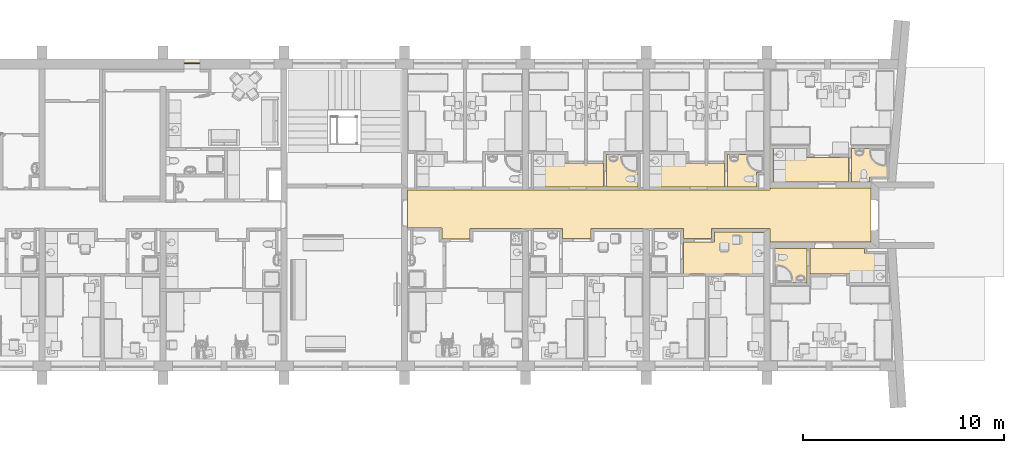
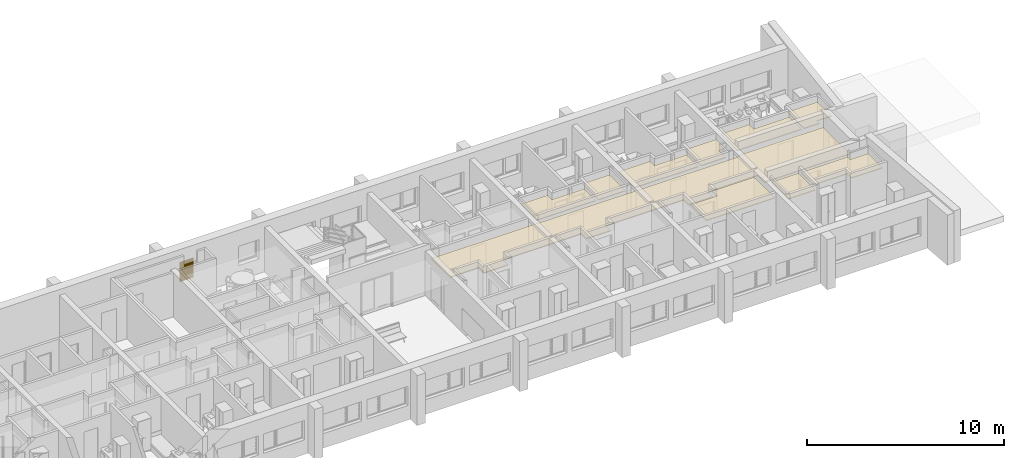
# One storey, part 43 of 172: 11 coverings.
"""IFC2X3 building model written with IfcOpenShell, lengths in millimetres."""

from ifc_helpers import new_model, entity, si_unit, converted_unit, money_unit, direction, frame, origin_with_axes, place, context, subcontext, project, spatial, faceted_brep, material, material_list, type_object, element, save


model = new_model("IFC2X3")

# Units and contexts
model_context = context("Model", 3, precision=1e-05, world=origin_with_axes(), true_north=direction((0.0, 1.0)))
body_context = subcontext(model_context, "Body", "Model", "MODEL_VIEW")
ifc_project = project(units=[si_unit("LENGTHUNIT", "METRE", prefix="MILLI"), si_unit("AREAUNIT", "SQUARE_METRE"), si_unit("VOLUMEUNIT", "CUBIC_METRE"), converted_unit("PLANEANGLEUNIT", "DEGREE", entity("IfcPlaneAngleMeasure", 0.0174532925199), si_unit("PLANEANGLEUNIT", "RADIAN"), dimensions=[0, 0, 0, 0, 0, 0, 0]), si_unit("SOLIDANGLEUNIT", "STERADIAN"), money_unit("USD"), converted_unit("TIMEUNIT", "Year", entity("IfcTimeMeasure", 31556926.0), si_unit("TIMEUNIT", "SECOND"), dimensions=[0, 0, 0, 0, 0, 0, 0]), si_unit("MASSUNIT", "GRAM"), si_unit("THERMODYNAMICTEMPERATUREUNIT", "DEGREE_CELSIUS"), si_unit("LUMINOUSINTENSITYUNIT", "LUMEN")], contexts=[model_context])

# Site, building, storey
site_placement = place(None, origin_with_axes())
site = spatial("IfcSite", under=ifc_project, at=site_placement, Name="Site", CompositionType="ELEMENT")
building_placement = place(site_placement, origin_with_axes())
building = spatial("IfcBuilding", under=site, at=building_placement, Name="Building", CompositionType="ELEMENT")
storey_placement = place(building_placement, frame((0.0, 0.0, 3200.0), z_axis=(0.0, 0.0, 1.0), x_axis=(1.0, 0.0, 0.0)))
storey = spatial("IfcBuildingStorey", under=building, at=storey_placement, Name="3KORRUS", CompositionType="ELEMENT", Elevation=3200.0)

# Coverings
ifc_material_1 = material(Name="Alumiiniumprofiil")
covering_type_1 = type_object("IfcCoveringType", Name="Alumiiniumprofiil 50", PredefinedType="NOTDEFINED")
covering_1_placement = place(storey_placement, frame((3884.70329669, -9367.37850445, 2350.0), z_axis=(0.0, 0.0, 1.0), x_axis=(1.0, 0.0, 0.0)))
element("IfcCovering", 1, at=covering_1_placement, inside=storey, type_object=covering_type_1, material=ifc_material_1, Name="RL2", ObjectType="alumiiniumprofiil", PredefinedType="CEILING", context=body_context, shape_type="Brep", body=[
    faceted_brep([(0.0, 0.0, -50.0), (0.0, -1620.723, -50.0), (0.0, -1620.723, 0.0), (0.0, 0.0, 0.0), (1575.0, 0.0, -50.0), (1575.0, -1619.226, -50.0), (1238.577, -1620.723, -50.0), (1238.577, -1620.723, 0.0), (1575.0, -1619.226, 0.0), (1575.0, 0.0, 0.0)], [[[0, 1, 2, 3]], [[0, 4, 5, 6, 1]], [[1, 6, 7, 2]], [[3, 2, 7, 8, 9]], [[4, 0, 3, 9]], [[5, 4, 9, 8]], [[6, 5, 8, 7]]]),
])
covering_2_placement = place(storey_placement, frame((9884.70329669, -10988.1015713, 2350.0), z_axis=(0.0, 0.0, 1.0), x_axis=(1.0, 0.0, 0.0)))
element("IfcCovering", 2, at=covering_2_placement, inside=storey, type_object=covering_type_1, material=ifc_material_1, Name="RL2", ObjectType="alumiiniumprofiil", PredefinedType="CEILING", context=body_context, shape_type="Brep", body=[
    faceted_brep([(0.0, 0.0, -50.0), (1238.577, 0.0, -50.0), (1238.577, 0.0, 0.0), (0.0, 0.0, 0.0), (0.0, 1620.723, -50.0), (1825.0, 1620.723, -50.0), (1825.0, 720.723, -50.0), (1452.923, 710.239, -50.0), (1452.923, 1.497, -50.0), (1452.923, 1.497, 0.0), (1452.923, 710.239, 0.0), (1825.0, 720.723, 0.0), (1825.0, 1620.723, 0.0), (0.0, 1620.723, 0.0)], [[[0, 1, 2, 3]], [[0, 4, 5, 6, 7, 8, 1]], [[1, 8, 9, 2]], [[3, 2, 9, 10, 11, 12, 13]], [[4, 0, 3, 13]], [[5, 4, 13, 12]], [[6, 5, 12, 11]], [[7, 6, 11, 10]], [[8, 7, 10, 9]]]),
])
covering_3_placement = place(storey_placement, frame((13834.2564771, -15738.0262806, 2350.0), z_axis=(0.0, 0.0, 1.0), x_axis=(1.0, 0.0, 0.0)))
element("IfcCovering", 3, at=covering_3_placement, inside=storey, type_object=covering_type_1, material=ifc_material_1, Name="RL3", ObjectType="alumiiniumprofiil", PredefinedType="CEILING", context=body_context, shape_type="Brep", body=[
    faceted_brep([(0.0, 0.0, -50.0), (0.0, 1698.786, -50.0), (0.0, 1698.786, 0.0), (0.0, 0.0, 0.0), (-1574.553, -1.0, -50.0), (-1574.553, 1698.786, -50.0), (-1574.553, 1698.786, 0.0), (-1574.553, -1.0, 0.0)], [[[0, 1, 2, 3]], [[0, 4, 5, 1]], [[1, 5, 6, 2]], [[3, 2, 6, 7]], [[4, 0, 3, 7]], [[5, 4, 7, 6]]]),
])
covering_4_placement = place(storey_placement, frame((16053.8738504, -10739.6041088, 2350.0), z_axis=(0.0, 0.0, 1.0), x_axis=(1.0, 0.0, 0.0)))
element("IfcCovering", 4, at=covering_4_placement, inside=storey, type_object=covering_type_1, material=ifc_material_1, Name="RL2", ObjectType="alumiiniumprofiil", PredefinedType="CEILING", context=body_context, shape_type="Brep", body=[
    faceted_brep([(0.0, 0.0, -50.0), (899.839, 0.0, -50.0), (899.839, 0.0, 0.0), (0.0, 0.0, 0.0), (0.0, 1669.235, -50.0), (1756.588, 1669.235, -50.0), (1759.588, 250.0, -50.0), (899.839, 250.0, -50.0), (899.839, 250.0, 0.0), (1759.588, 250.0, 0.0), (1756.588, 1669.235, 0.0), (0.0, 1669.235, 0.0)], [[[0, 1, 2, 3]], [[0, 4, 5, 6, 7, 1]], [[1, 7, 8, 2]], [[3, 2, 8, 9, 10, 11]], [[4, 0, 3, 11]], [[5, 4, 11, 10]], [[6, 5, 10, 9]], [[7, 6, 9, 8]]]),
])
ifc_material_2 = material(Name="UmbKipsplaat")
covering_type_2 = type_object("IfcCoveringType", Name="UmbKipsplaat 50", PredefinedType="NOTDEFINED")
covering_5_placement = place(storey_placement, frame((9259.55737734, -13213.1091874, 2350.0), z_axis=(0.0, 0.0, 1.0), x_axis=(1.0, 0.0, 0.0)))
element("IfcCovering", 5, at=covering_5_placement, inside=storey, type_object=covering_type_2, material=ifc_material_2, Name="RL1", ObjectType="kipsplaat", PredefinedType="CEILING", context=body_context, shape_type="Brep", body=[
    faceted_brep([(0.0, 0.0, -50.0), (0.0, -500.213, -50.0), (0.0, -500.213, 0.0), (0.0, 0.0, 0.0), (2450.146, -0.131, -50.0), (2450.146, -2102.131, -50.0), (-1549.661, -2102.131, -50.0), (-1549.661, -500.213, -50.0), (-1549.661, -500.213, 0.0), (-1549.661, -2102.131, 0.0), (2450.146, -2102.131, 0.0), (2450.146, -0.131, 0.0)], [[[0, 1, 2, 3]], [[0, 4, 5, 6, 7, 1]], [[1, 7, 8, 2]], [[3, 2, 8, 9, 10, 11]], [[4, 0, 3, 11]], [[5, 4, 11, 10]], [[6, 5, 10, 9]], [[7, 6, 9, 8]]]),
])
covering_6_placement = place(storey_placement, frame((266.697736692, -9365.87594213, 2350.0), z_axis=(0.0, 0.0, 1.0), x_axis=(1.0, 0.0, 0.0)))
element("IfcCovering", 6, at=covering_6_placement, inside=storey, type_object=covering_type_2, material=ifc_material_2, Name="RL1", ObjectType="kipsplaat", PredefinedType="CEILING", context=body_context, shape_type="Brep", body=[
    faceted_brep([(0.0, 0.0, -50.0), (0.0, -1619.226, -50.0), (0.0, -1619.226, 0.0), (0.0, 0.0, 0.0), (1567.559, -0.503, -50.0), (1567.559, -440.516, -50.0), (3468.006, -440.516, -50.0), (3468.006, -1620.226, -50.0), (3468.006, -1620.226, 0.0), (3468.006, -440.516, 0.0), (1567.559, -440.516, 0.0), (1567.559, -0.503, 0.0)], [[[0, 1, 2, 3]], [[0, 4, 5, 6, 7, 1]], [[1, 7, 8, 2]], [[3, 2, 8, 9, 10, 11]], [[4, 0, 3, 11]], [[5, 4, 11, 10]], [[6, 5, 10, 9]], [[7, 6, 9, 8]]]),
])
covering_7_placement = place(storey_placement, frame((6009.70329669, -9366.87595361, 2350.0), z_axis=(0.0, 0.0, 1.0), x_axis=(1.0, 0.0, 0.0)))
element("IfcCovering", 7, at=covering_7_placement, inside=storey, type_object=covering_type_2, material=ifc_material_2, Name="RL1", ObjectType="kipsplaat", PredefinedType="CEILING", context=body_context, shape_type="Brep", body=[
    faceted_brep([(0.0, 0.0, -50.0), (0.0, -1619.226, -50.0), (0.0, -1619.226, 0.0), (0.0, 0.0, 0.0), (1824.553, -0.503, -50.0), (1824.553, -440.516, -50.0), (3725.0, -440.516, -50.0), (3725.0, -1620.226, -50.0), (3725.0, -1620.226, 0.0), (3725.0, -440.516, 0.0), (1824.553, -440.516, 0.0), (1824.553, -0.503, 0.0)], [[[0, 1, 2, 3]], [[0, 4, 5, 6, 7, 1]], [[1, 7, 8, 2]], [[3, 2, 8, 9, 10, 11]], [[4, 0, 3, 11]], [[5, 4, 11, 10]], [[6, 5, 10, 9]], [[7, 6, 9, 8]]]),
])
covering_8_placement = place(storey_placement, frame((13984.2564771, -15298.5106464, 2350.0), z_axis=(0.0, 0.0, 1.0), x_axis=(1.0, 0.0, 0.0)))
element("IfcCovering", 8, at=covering_8_placement, inside=storey, type_object=covering_type_2, material=ifc_material_2, Name="RL1", ObjectType="kipsplaat", PredefinedType="CEILING", context=body_context, shape_type="Brep", body=[
    faceted_brep([(0.0, 0.0, -50.0), (1977.292, 0.0, -50.0), (1977.292, 0.0, 0.0), (0.0, 0.0, 0.0), (0.0, 1259.271, -50.0), (2717.341, 1259.271, -50.0), (2717.341, 999.271, -50.0), (3777.292, 999.271, -50.0), (3777.292, -439.516, -50.0), (1977.292, -439.516, -50.0), (1977.292, -439.516, 0.0), (3777.292, -439.516, 0.0), (3777.292, 999.271, 0.0), (2717.341, 999.271, 0.0), (2717.341, 1259.271, 0.0), (0.0, 1259.271, 0.0)], [[[0, 1, 2, 3]], [[0, 4, 5, 6, 7, 8, 9, 1]], [[1, 9, 10, 2]], [[3, 2, 10, 11, 12, 13, 14, 15]], [[4, 0, 3, 15]], [[5, 4, 15, 14]], [[6, 5, 14, 13]], [[7, 6, 13, 12]], [[8, 7, 12, 11]], [[9, 8, 11, 10]]]),
])
covering_9_placement = place(storey_placement, frame((12184.2564771, -9070.3690093, 2350.0), z_axis=(0.0, 0.0, 1.0), x_axis=(1.0, 0.0, 0.0)))
element("IfcCovering", 9, at=covering_9_placement, inside=storey, type_object=covering_type_2, material=ifc_material_2, Name="RL1", ObjectType="kipsplaat", PredefinedType="CEILING", context=body_context, shape_type="Brep", body=[
    faceted_brep([(0.0, 0.0, -50.0), (-24.553, 1.0, -50.0), (-24.553, 1.0, 0.0), (0.0, 0.0, 0.0), (1638.051, 0.0, -50.0), (1645.797, -453.232, -50.0), (3719.617, -439.516, -50.0), (3719.617, -1669.235, -50.0), (-24.553, -1669.235, -50.0), (-24.553, -1669.235, 0.0), (3719.617, -1669.235, 0.0), (3719.617, -439.516, 0.0), (1645.797, -453.232, 0.0), (1638.051, 0.0, 0.0)], [[[0, 1, 2, 3]], [[0, 4, 5, 6, 7, 8, 1]], [[1, 8, 9, 2]], [[3, 2, 9, 10, 11, 12, 13]], [[4, 0, 3, 13]], [[5, 4, 13, 12]], [[6, 5, 12, 11]], [[7, 6, 11, 10]], [[8, 7, 10, 9]]]),
])
ifc_material_3 = material(Name="Terasvõrk")
covering_type_3 = type_object("IfcCoveringType", Name="Terasvõrk 50", PredefinedType="NOTDEFINED")
covering_10_placement = place(storey_placement, frame((-5990.29670331, -11136.6041088, 2250.0), z_axis=(0.0, 0.0, 1.0), x_axis=(1.0, 0.0, 0.0)))
element("IfcCovering", 10, at=covering_10_placement, inside=storey, type_object=covering_type_3, material=ifc_material_3, Name="RL3", ObjectType="Terasvõrk", PredefinedType="CEILING", context=body_context, shape_type="Brep", body=[
    faceted_brep([(0.0, 0.0, -50.0), (0.0, -1900.028, -50.0), (0.0, -1900.028, 0.0), (0.0, 0.0, 0.0), (18000.0, -2.991, -50.0), (18000.0, 105.398, -50.0), (23005.477, 105.398, -50.0), (23005.477, -2594.238, -50.0), (18000.0, -2594.238, -50.0), (18000.0, -1902.636, -50.0), (15099.854, -1902.636, -50.0), (15099.854, -2402.848, -50.0), (13700.193, -2402.848, -50.0), (13700.193, -1902.766, -50.0), (9093.566, -1902.636, -50.0), (9093.566, -2402.848, -50.0), (7693.905, -2402.979, -50.0), (7693.905, -1902.897, -50.0), (3099.854, -1915.897, -50.0), (3099.854, -2426.848, -50.0), (1700.193, -2426.848, -50.0), (1700.193, -1900.028, -50.0), (1700.193, -1900.028, 0.0), (1700.193, -2426.848, 0.0), (3099.854, -2426.848, 0.0), (3099.854, -1915.897, 0.0), (7693.905, -1902.897, 0.0), (7693.905, -2402.979, 0.0), (9093.566, -2402.848, 0.0), (9093.566, -1902.636, 0.0), (13700.193, -1902.766, 0.0), (13700.193, -2402.848, 0.0), (15099.854, -2402.848, 0.0), (15099.854, -1902.636, 0.0), (18000.0, -1902.636, 0.0), (18000.0, -2594.238, 0.0), (23005.477, -2594.238, 0.0), (23005.477, 105.398, 0.0), (18000.0, 105.398, 0.0), (18000.0, -2.991, 0.0)], [[[0, 1, 2, 3]], [[0, 4, 5, 6, 7, 8, 9, 10, 11, 12, 13, 14, 15, 16, 17, 18, 19, 20, 21, 1]], [[1, 21, 22, 2]], [[3, 2, 22, 23, 24, 25, 26, 27, 28, 29, 30, 31, 32, 33, 34, 35, 36, 37, 38, 39]], [[4, 0, 3, 39]], [[5, 4, 39, 38]], [[6, 5, 38, 37]], [[7, 6, 37, 36]], [[8, 7, 36, 35]], [[9, 8, 35, 34]], [[10, 9, 34, 33]], [[11, 10, 33, 32]], [[12, 11, 32, 31]], [[13, 12, 31, 30]], [[14, 13, 30, 29]], [[15, 14, 29, 28]], [[16, 15, 28, 27]], [[17, 16, 27, 26]], [[18, 17, 26, 25]], [[19, 18, 25, 24]], [[20, 19, 24, 23]], [[21, 20, 23, 22]]]),
])
ifc_material_4 = material(Name="Background")
ifc_material_list = material_list([ifc_material_4])
covering_type_4 = type_object("IfcCoveringType", Name="Window 19", PredefinedType="NOTDEFINED")
covering_11_placement = place(storey_placement, frame((-17090.2967033, -5039.6041088, 900.0), z_axis=(0.0, 0.0, 1.0), x_axis=(1.0, 0.0, 0.0)))
element("IfcCovering", 11, at=covering_11_placement, inside=storey, type_object=covering_type_4, material=ifc_material_list, Name="VR1", ObjectType="VR1", context=body_context, shape_type="Brep", body=[
    faceted_brep([(25.0, 200.0, 1150.0), (0.0, 200.0, 1150.0), (0.0, 150.0, 1150.0), (50.0, 150.0, 1150.0), (50.0, 175.0, 1150.0), (25.0, 175.0, 1150.0), (25.0, 200.0, 50.0), (0.0, 200.0, 50.0), (0.0, 150.0, 50.0), (50.0, 150.0, 50.0), (50.0, 175.0, 50.0), (25.0, 175.0, 50.0)], [[[0, 1, 2, 3, 4, 5]], [[6, 7, 1, 0]], [[1, 7, 8, 2]], [[2, 8, 9, 3]], [[4, 3, 9, 10]], [[10, 11, 5, 4]], [[5, 11, 6, 0]], [[11, 10, 9, 8, 7, 6]]]),
    faceted_brep([(750.0, 175.0, 1150.0), (750.0, 150.0, 1150.0), (800.0, 150.0, 1150.0), (800.0, 200.0, 1150.0), (775.0, 200.0, 1150.0), (775.0, 175.0, 1150.0), (750.0, 175.0, 50.0), (750.0, 150.0, 50.0), (800.0, 150.0, 50.0), (800.0, 200.0, 50.0), (775.0, 200.0, 50.0), (775.0, 175.0, 50.0)], [[[0, 1, 2, 3, 4, 5]], [[6, 7, 1, 0]], [[8, 2, 1, 7]], [[9, 3, 2, 8]], [[4, 3, 9, 10]], [[10, 11, 5, 4]], [[5, 11, 6, 0]], [[11, 10, 9, 8, 7, 6]]]),
    faceted_brep([(750.0, 175.0, 50.0), (750.0, 150.0, 50.0), (800.0, 150.0, 50.0), (800.0, 200.0, 50.0), (775.0, 200.0, 50.0), (775.0, 175.0, 50.0), (50.0, 175.0, 50.0), (50.0, 150.0, 50.0), (0.0, 150.0, 50.0), (0.0, 150.0, 0.0), (800.0, 150.0, 0.0), (800.0, 200.0, 0.0), (25.0, 200.0, 25.0), (775.0, 200.0, 25.0), (0.0, 200.0, 0.0), (0.0, 200.0, 50.0), (25.0, 200.0, 50.0), (775.0, 175.0, 25.0), (25.0, 175.0, 25.0), (25.0, 175.0, 50.0)], [[[0, 1, 2, 3, 4, 5]], [[6, 7, 1, 0]], [[8, 9, 10, 2, 1, 7]], [[11, 3, 2, 10]], [[12, 13, 4, 3, 11, 14, 15, 16]], [[13, 17, 5, 4]], [[5, 17, 18, 19, 6, 0]], [[19, 16, 15, 8, 7, 6]], [[15, 14, 9, 8]], [[14, 11, 10, 9]], [[12, 18, 17, 13]], [[19, 18, 12, 16]]]),
    faceted_brep([(25.0, 200.0, 1150.0), (0.0, 200.0, 1150.0), (0.0, 200.0, 1200.0), (800.0, 200.0, 1200.0), (800.0, 200.0, 1150.0), (775.0, 200.0, 1150.0), (775.0, 200.0, 1175.0), (25.0, 200.0, 1175.0), (25.0, 175.0, 1150.0), (50.0, 175.0, 1150.0), (50.0, 150.0, 1150.0), (0.0, 150.0, 1150.0), (0.0, 150.0, 1200.0), (800.0, 150.0, 1200.0), (800.0, 150.0, 1150.0), (775.0, 175.0, 1150.0), (750.0, 150.0, 1150.0), (750.0, 175.0, 1150.0), (775.0, 175.0, 1175.0), (25.0, 175.0, 1175.0)], [[[0, 1, 2, 3, 4, 5, 6, 7]], [[8, 9, 10, 11, 1, 0]], [[2, 1, 11, 12]], [[3, 2, 12, 13]], [[4, 3, 13, 14]], [[15, 5, 4, 14, 16, 17]], [[5, 15, 18, 6]], [[6, 18, 19, 7]], [[7, 19, 8, 0]], [[17, 9, 8, 19, 18, 15]], [[17, 16, 10, 9]], [[14, 13, 12, 11, 10, 16]]]),
    faceted_brep([(75.0, 175.0, 1125.0), (75.0, 225.0, 1125.0), (25.0, 225.0, 1125.0), (25.0, 175.0, 1125.0), (75.0, 175.0, 75.0), (75.0, 225.0, 75.0), (25.0, 225.0, 75.0), (25.0, 175.0, 75.0)], [[[0, 1, 2, 3]], [[4, 5, 1, 0]], [[1, 5, 6, 2]], [[3, 2, 6, 7]], [[0, 3, 7, 4]], [[7, 6, 5, 4]]]),
    faceted_brep([(725.0, 175.0, 75.0), (725.0, 225.0, 75.0), (775.0, 225.0, 75.0), (775.0, 175.0, 75.0), (725.0, 175.0, 1125.0), (725.0, 225.0, 1125.0), (775.0, 225.0, 1125.0), (775.0, 175.0, 1125.0)], [[[0, 1, 2, 3]], [[4, 5, 1, 0]], [[1, 5, 6, 2]], [[3, 2, 6, 7]], [[0, 3, 7, 4]], [[7, 6, 5, 4]]]),
    faceted_brep([(775.0, 175.0, 25.0), (775.0, 225.0, 25.0), (775.0, 225.0, 75.0), (775.0, 175.0, 75.0), (25.0, 175.0, 25.0), (25.0, 225.0, 25.0), (25.0, 225.0, 75.0), (75.0, 225.0, 75.0), (725.0, 225.0, 75.0), (725.0, 175.0, 75.0), (75.0, 175.0, 75.0), (25.0, 175.0, 75.0)], [[[0, 1, 2, 3]], [[4, 5, 1, 0]], [[1, 5, 6, 7, 8, 2]], [[3, 2, 8, 9]], [[0, 3, 9, 10, 11, 4]], [[11, 6, 5, 4]], [[10, 7, 6, 11]], [[9, 8, 7, 10]]]),
    faceted_brep([(25.0, 175.0, 1175.0), (25.0, 225.0, 1175.0), (25.0, 225.0, 1125.0), (25.0, 175.0, 1125.0), (775.0, 175.0, 1175.0), (775.0, 225.0, 1175.0), (775.0, 225.0, 1125.0), (725.0, 225.0, 1125.0), (75.0, 225.0, 1125.0), (75.0, 175.0, 1125.0), (725.0, 175.0, 1125.0), (775.0, 175.0, 1125.0)], [[[0, 1, 2, 3]], [[4, 5, 1, 0]], [[1, 5, 6, 7, 8, 2]], [[3, 2, 8, 9]], [[0, 3, 9, 10, 11, 4]], [[11, 6, 5, 4]], [[10, 7, 6, 11]], [[9, 8, 7, 10]]]),
    faceted_brep([(75.0, 225.0, 95.0), (725.0, 225.0, 95.0), (725.0, 175.0, 95.0), (75.0, 175.0, 95.0), (75.0, 225.0, 105.0), (725.0, 225.0, 105.0), (725.0, 175.0, 105.0), (75.0, 175.0, 105.0)], [[[0, 1, 2, 3]], [[4, 5, 1, 0]], [[1, 5, 6, 2]], [[3, 2, 6, 7]], [[0, 3, 7, 4]], [[7, 6, 5, 4]]]),
    faceted_brep([(75.0, 225.0, 145.0), (725.0, 225.0, 145.0), (725.0, 175.0, 145.0), (75.0, 175.0, 145.0), (75.0, 225.0, 155.0), (725.0, 225.0, 155.0), (725.0, 175.0, 155.0), (75.0, 175.0, 155.0)], [[[0, 1, 2, 3]], [[4, 5, 1, 0]], [[1, 5, 6, 2]], [[3, 2, 6, 7]], [[0, 3, 7, 4]], [[7, 6, 5, 4]]]),
    faceted_brep([(75.0, 225.0, 195.0), (725.0, 225.0, 195.0), (725.0, 175.0, 195.0), (75.0, 175.0, 195.0), (75.0, 225.0, 205.0), (725.0, 225.0, 205.0), (725.0, 175.0, 205.0), (75.0, 175.0, 205.0)], [[[0, 1, 2, 3]], [[4, 5, 1, 0]], [[1, 5, 6, 2]], [[3, 2, 6, 7]], [[0, 3, 7, 4]], [[7, 6, 5, 4]]]),
    faceted_brep([(75.0, 225.0, 245.0), (725.0, 225.0, 245.0), (725.0, 175.0, 245.0), (75.0, 175.0, 245.0), (75.0, 225.0, 255.0), (725.0, 225.0, 255.0), (725.0, 175.0, 255.0), (75.0, 175.0, 255.0)], [[[0, 1, 2, 3]], [[4, 5, 1, 0]], [[1, 5, 6, 2]], [[3, 2, 6, 7]], [[0, 3, 7, 4]], [[7, 6, 5, 4]]]),
    faceted_brep([(75.0, 225.0, 295.0), (725.0, 225.0, 295.0), (725.0, 175.0, 295.0), (75.0, 175.0, 295.0), (75.0, 225.0, 305.0), (725.0, 225.0, 305.0), (725.0, 175.0, 305.0), (75.0, 175.0, 305.0)], [[[0, 1, 2, 3]], [[4, 5, 1, 0]], [[1, 5, 6, 2]], [[3, 2, 6, 7]], [[0, 3, 7, 4]], [[7, 6, 5, 4]]]),
    faceted_brep([(75.0, 225.0, 345.0), (725.0, 225.0, 345.0), (725.0, 175.0, 345.0), (75.0, 175.0, 345.0), (75.0, 225.0, 355.0), (725.0, 225.0, 355.0), (725.0, 175.0, 355.0), (75.0, 175.0, 355.0)], [[[0, 1, 2, 3]], [[4, 5, 1, 0]], [[1, 5, 6, 2]], [[3, 2, 6, 7]], [[0, 3, 7, 4]], [[7, 6, 5, 4]]]),
    faceted_brep([(75.0, 225.0, 395.0), (725.0, 225.0, 395.0), (725.0, 175.0, 395.0), (75.0, 175.0, 395.0), (75.0, 225.0, 405.0), (725.0, 225.0, 405.0), (725.0, 175.0, 405.0), (75.0, 175.0, 405.0)], [[[0, 1, 2, 3]], [[4, 5, 1, 0]], [[1, 5, 6, 2]], [[3, 2, 6, 7]], [[0, 3, 7, 4]], [[7, 6, 5, 4]]]),
    faceted_brep([(75.0, 225.0, 445.0), (725.0, 225.0, 445.0), (725.0, 175.0, 445.0), (75.0, 175.0, 445.0), (75.0, 225.0, 455.0), (725.0, 225.0, 455.0), (725.0, 175.0, 455.0), (75.0, 175.0, 455.0)], [[[0, 1, 2, 3]], [[4, 5, 1, 0]], [[1, 5, 6, 2]], [[3, 2, 6, 7]], [[0, 3, 7, 4]], [[7, 6, 5, 4]]]),
    faceted_brep([(75.0, 225.0, 495.0), (725.0, 225.0, 495.0), (725.0, 175.0, 495.0), (75.0, 175.0, 495.0), (75.0, 225.0, 505.0), (725.0, 225.0, 505.0), (725.0, 175.0, 505.0), (75.0, 175.0, 505.0)], [[[0, 1, 2, 3]], [[4, 5, 1, 0]], [[1, 5, 6, 2]], [[3, 2, 6, 7]], [[0, 3, 7, 4]], [[7, 6, 5, 4]]]),
    faceted_brep([(75.0, 225.0, 545.0), (725.0, 225.0, 545.0), (725.0, 175.0, 545.0), (75.0, 175.0, 545.0), (75.0, 225.0, 555.0), (725.0, 225.0, 555.0), (725.0, 175.0, 555.0), (75.0, 175.0, 555.0)], [[[0, 1, 2, 3]], [[4, 5, 1, 0]], [[1, 5, 6, 2]], [[3, 2, 6, 7]], [[0, 3, 7, 4]], [[7, 6, 5, 4]]]),
    faceted_brep([(75.0, 225.0, 595.0), (725.0, 225.0, 595.0), (725.0, 175.0, 595.0), (75.0, 175.0, 595.0), (75.0, 225.0, 605.0), (725.0, 225.0, 605.0), (725.0, 175.0, 605.0), (75.0, 175.0, 605.0)], [[[0, 1, 2, 3]], [[4, 5, 1, 0]], [[1, 5, 6, 2]], [[3, 2, 6, 7]], [[0, 3, 7, 4]], [[7, 6, 5, 4]]]),
    faceted_brep([(75.0, 225.0, 645.0), (725.0, 225.0, 645.0), (725.0, 175.0, 645.0), (75.0, 175.0, 645.0), (75.0, 225.0, 655.0), (725.0, 225.0, 655.0), (725.0, 175.0, 655.0), (75.0, 175.0, 655.0)], [[[0, 1, 2, 3]], [[4, 5, 1, 0]], [[1, 5, 6, 2]], [[3, 2, 6, 7]], [[0, 3, 7, 4]], [[7, 6, 5, 4]]]),
    faceted_brep([(75.0, 225.0, 695.0), (725.0, 225.0, 695.0), (725.0, 175.0, 695.0), (75.0, 175.0, 695.0), (75.0, 225.0, 705.0), (725.0, 225.0, 705.0), (725.0, 175.0, 705.0), (75.0, 175.0, 705.0)], [[[0, 1, 2, 3]], [[4, 5, 1, 0]], [[1, 5, 6, 2]], [[3, 2, 6, 7]], [[0, 3, 7, 4]], [[7, 6, 5, 4]]]),
    faceted_brep([(75.0, 225.0, 745.0), (725.0, 225.0, 745.0), (725.0, 175.0, 745.0), (75.0, 175.0, 745.0), (75.0, 225.0, 755.0), (725.0, 225.0, 755.0), (725.0, 175.0, 755.0), (75.0, 175.0, 755.0)], [[[0, 1, 2, 3]], [[4, 5, 1, 0]], [[1, 5, 6, 2]], [[3, 2, 6, 7]], [[0, 3, 7, 4]], [[7, 6, 5, 4]]]),
    faceted_brep([(75.0, 225.0, 795.0), (725.0, 225.0, 795.0), (725.0, 175.0, 795.0), (75.0, 175.0, 795.0), (75.0, 225.0, 805.0), (725.0, 225.0, 805.0), (725.0, 175.0, 805.0), (75.0, 175.0, 805.0)], [[[0, 1, 2, 3]], [[4, 5, 1, 0]], [[1, 5, 6, 2]], [[3, 2, 6, 7]], [[0, 3, 7, 4]], [[7, 6, 5, 4]]]),
    faceted_brep([(75.0, 225.0, 845.0), (725.0, 225.0, 845.0), (725.0, 175.0, 845.0), (75.0, 175.0, 845.0), (75.0, 225.0, 855.0), (725.0, 225.0, 855.0), (725.0, 175.0, 855.0), (75.0, 175.0, 855.0)], [[[0, 1, 2, 3]], [[4, 5, 1, 0]], [[1, 5, 6, 2]], [[3, 2, 6, 7]], [[0, 3, 7, 4]], [[7, 6, 5, 4]]]),
    faceted_brep([(75.0, 225.0, 895.0), (725.0, 225.0, 895.0), (725.0, 175.0, 895.0), (75.0, 175.0, 895.0), (75.0, 225.0, 905.0), (725.0, 225.0, 905.0), (725.0, 175.0, 905.0), (75.0, 175.0, 905.0)], [[[0, 1, 2, 3]], [[4, 5, 1, 0]], [[1, 5, 6, 2]], [[3, 2, 6, 7]], [[0, 3, 7, 4]], [[7, 6, 5, 4]]]),
    faceted_brep([(75.0, 225.0, 945.0), (725.0, 225.0, 945.0), (725.0, 175.0, 945.0), (75.0, 175.0, 945.0), (75.0, 225.0, 955.0), (725.0, 225.0, 955.0), (725.0, 175.0, 955.0), (75.0, 175.0, 955.0)], [[[0, 1, 2, 3]], [[4, 5, 1, 0]], [[1, 5, 6, 2]], [[3, 2, 6, 7]], [[0, 3, 7, 4]], [[7, 6, 5, 4]]]),
    faceted_brep([(75.0, 225.0, 995.0), (725.0, 225.0, 995.0), (725.0, 175.0, 995.0), (75.0, 175.0, 995.0), (75.0, 225.0, 1005.0), (725.0, 225.0, 1005.0), (725.0, 175.0, 1005.0), (75.0, 175.0, 1005.0)], [[[0, 1, 2, 3]], [[4, 5, 1, 0]], [[1, 5, 6, 2]], [[3, 2, 6, 7]], [[0, 3, 7, 4]], [[7, 6, 5, 4]]]),
    faceted_brep([(75.0, 225.0, 1045.0), (725.0, 225.0, 1045.0), (725.0, 175.0, 1045.0), (75.0, 175.0, 1045.0), (75.0, 225.0, 1055.0), (725.0, 225.0, 1055.0), (725.0, 175.0, 1055.0), (75.0, 175.0, 1055.0)], [[[0, 1, 2, 3]], [[4, 5, 1, 0]], [[1, 5, 6, 2]], [[3, 2, 6, 7]], [[0, 3, 7, 4]], [[7, 6, 5, 4]]]),
    faceted_brep([(75.0, 225.0, 1095.0), (725.0, 225.0, 1095.0), (725.0, 175.0, 1095.0), (75.0, 175.0, 1095.0), (75.0, 225.0, 1105.0), (725.0, 225.0, 1105.0), (725.0, 175.0, 1105.0), (75.0, 175.0, 1105.0)], [[[0, 1, 2, 3]], [[4, 5, 1, 0]], [[1, 5, 6, 2]], [[3, 2, 6, 7]], [[0, 3, 7, 4]], [[7, 6, 5, 4]]]),
])

save(model, "model.ifc")
